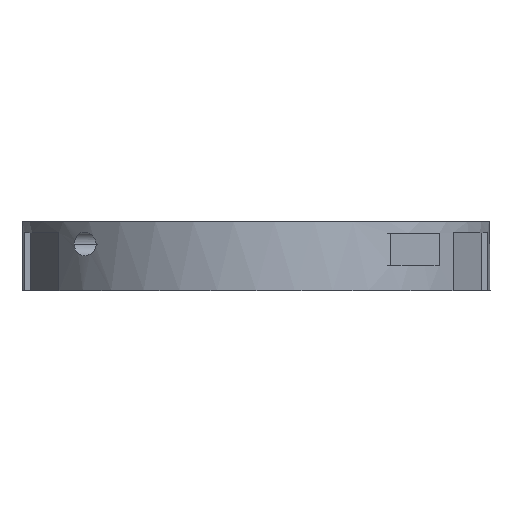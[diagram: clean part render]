
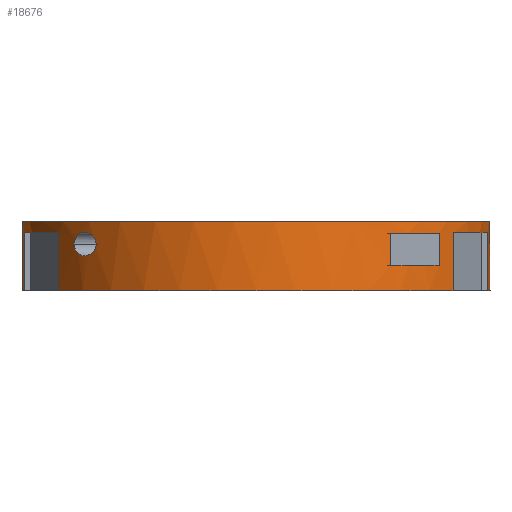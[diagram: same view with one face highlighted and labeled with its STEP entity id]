
A CAD part, front view. The second image highlights one B-rep face of the part: STEP entity #18676.
In plain terms, the highlighted cylindrical face has radius 25 mm (diameter 50 mm), a partial arc.
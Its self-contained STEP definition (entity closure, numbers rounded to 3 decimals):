
#6981=CARTESIAN_POINT(' ',(-24.923,-1.956,7.4));
#6982=VERTEX_POINT(' ',#6981);
#6986=CARTESIAN_POINT(' ',(24.923,1.956,7.4));
#6987=VERTEX_POINT(' ',#6986);
#7001=CARTESIAN_POINT(' ',(0.,0.,7.4));
#7006=DIRECTION(' ',(0.,0.,-1.));
#7011=DIRECTION(' ',(0.997,0.078,0.));
#7016=AXIS2_PLACEMENT_3D(' ',#7001,#7006,#7011);
#7021=CIRCLE('',#7016,25.);
#7026=EDGE_CURVE(' ',#6987,#6982,#7021,.T.);
#17166=CARTESIAN_POINT(' ',(24.923,1.956,0.));
#17171=DIRECTION(' ',(0.,0.,1.));
#17176=VECTOR(' ',#17171,1.);
#17181=LINE('',#17166,#17176);
#17186=CARTESIAN_POINT(' ',(24.923,1.956,0.));
#17187=VERTEX_POINT(' ',#17186);
#17191=EDGE_CURVE(' ',#17187,#6987,#17181,.T.);
#17526=CARTESIAN_POINT(' ',(-24.923,-1.956,0.));
#17527=VERTEX_POINT(' ',#17526);
#17541=CARTESIAN_POINT(' ',(-24.923,-1.956,0.));
#17546=DIRECTION(' ',(0.,0.,1.));
#17551=VECTOR(' ',#17546,1.);
#17556=LINE('',#17541,#17551);
#17561=EDGE_CURVE(' ',#17527,#6982,#17556,.T.);
#17941=CARTESIAN_POINT(' ',(0.,0.,22.5));
#17946=DIRECTION(' ',(0.,0.,-1.));
#17951=DIRECTION(' ',(0.997,0.078,0.));
#17956=AXIS2_PLACEMENT_3D(' ',#17941,#17946,#17951);
#17961=CYLINDRICAL_SURFACE(' ',#17956,25.);
#17966=ORIENTED_EDGE(' ',*,*,#17191,.T.);
#17971=ORIENTED_EDGE(' ',*,*,#7026,.T.);
#17976=ORIENTED_EDGE(' ',*,*,#17561,.F.);
#17981=CARTESIAN_POINT(' ',(0.,0.,0.));
#17986=DIRECTION(' ',(0.,0.,-1.));
#17991=DIRECTION(' ',(-0.988,-0.156,0.));
#17996=AXIS2_PLACEMENT_3D(' ',#17981,#17986,#17991);
#18001=CIRCLE('',#17996,25.);
#18006=CARTESIAN_POINT(' ',(-24.694,-3.9,0.));
#18007=VERTEX_POINT(' ',#18006);
#18011=EDGE_CURVE(' ',#18007,#17527,#18001,.T.);
#18016=ORIENTED_EDGE(' ',*,*,#18011,.F.);
#18021=CARTESIAN_POINT(' ',(-24.694,-3.9,6.2));
#18026=DIRECTION(' ',(0.,0.,-1.));
#18031=VECTOR(' ',#18026,1.);
#18036=LINE('',#18021,#18031);
#18041=CARTESIAN_POINT(' ',(-24.694,-3.9,6.2));
#18042=VERTEX_POINT(' ',#18041);
#18046=EDGE_CURVE(' ',#18042,#18007,#18036,.T.);
#18051=ORIENTED_EDGE(' ',*,*,#18046,.F.);
#18056=CARTESIAN_POINT(' ',(0.,0.,6.2));
#18061=DIRECTION(' ',(0.,0.,1.));
#18066=DIRECTION(' ',(-0.988,-0.156,0.));
#18071=AXIS2_PLACEMENT_3D(' ',#18056,#18061,#18066);
#18076=CIRCLE('',#18071,25.);
#18081=CARTESIAN_POINT(' ',(-21.05,-13.487,6.2));
#18082=VERTEX_POINT(' ',#18081);
#18086=EDGE_CURVE(' ',#18042,#18082,#18076,.T.);
#18091=ORIENTED_EDGE(' ',*,*,#18086,.T.);
#18096=CARTESIAN_POINT(' ',(-21.05,-13.487,6.2));
#18101=DIRECTION(' ',(0.,0.,-1.));
#18106=VECTOR(' ',#18101,1.);
#18111=LINE('',#18096,#18106);
#18116=CARTESIAN_POINT(' ',(-21.05,-13.487,0.));
#18117=VERTEX_POINT(' ',#18116);
#18121=EDGE_CURVE(' ',#18082,#18117,#18111,.T.);
#18126=ORIENTED_EDGE(' ',*,*,#18121,.T.);
#18131=CARTESIAN_POINT(' ',(0.,0.,0.));
#18136=DIRECTION(' ',(0.,0.,-1.));
#18141=DIRECTION(' ',(0.842,-0.539,0.));
#18146=AXIS2_PLACEMENT_3D(' ',#18131,#18136,#18141);
#18151=CIRCLE('',#18146,25.);
#18156=CARTESIAN_POINT(' ',(21.05,-13.487,0.));
#18157=VERTEX_POINT(' ',#18156);
#18161=EDGE_CURVE(' ',#18157,#18117,#18151,.T.);
#18166=ORIENTED_EDGE(' ',*,*,#18161,.F.);
#18171=CARTESIAN_POINT(' ',(21.05,-13.487,6.2));
#18176=DIRECTION(' ',(0.,0.,-1.));
#18181=VECTOR(' ',#18176,1.);
#18186=LINE('',#18171,#18181);
#18191=CARTESIAN_POINT(' ',(21.05,-13.487,6.2));
#18192=VERTEX_POINT(' ',#18191);
#18196=EDGE_CURVE(' ',#18192,#18157,#18186,.T.);
#18201=ORIENTED_EDGE(' ',*,*,#18196,.F.);
#18206=CARTESIAN_POINT(' ',(0.,0.,6.2));
#18211=DIRECTION(' ',(0.,0.,1.));
#18216=DIRECTION(' ',(0.842,-0.539,0.));
#18221=AXIS2_PLACEMENT_3D(' ',#18206,#18211,#18216);
#18226=CIRCLE('',#18221,25.);
#18231=CARTESIAN_POINT(' ',(24.694,-3.9,6.2));
#18232=VERTEX_POINT(' ',#18231);
#18236=EDGE_CURVE(' ',#18192,#18232,#18226,.T.);
#18241=ORIENTED_EDGE(' ',*,*,#18236,.T.);
#18246=CARTESIAN_POINT(' ',(24.694,-3.9,6.2));
#18251=DIRECTION(' ',(0.,0.,-1.));
#18256=VECTOR(' ',#18251,1.);
#18261=LINE('',#18246,#18256);
#18266=CARTESIAN_POINT(' ',(24.694,-3.9,0.));
#18267=VERTEX_POINT(' ',#18266);
#18271=EDGE_CURVE(' ',#18232,#18267,#18261,.T.);
#18276=ORIENTED_EDGE(' ',*,*,#18271,.T.);
#18281=CARTESIAN_POINT(' ',(0.,0.,0.));
#18286=DIRECTION(' ',(-0.,0.,-1.));
#18291=DIRECTION(' ',(0.997,0.078,0.));
#18296=AXIS2_PLACEMENT_3D(' ',#18281,#18286,#18291);
#18301=CIRCLE('',#18296,25.);
#18306=EDGE_CURVE(' ',#17187,#18267,#18301,.T.);
#18311=ORIENTED_EDGE(' ',*,*,#18306,.F.);
#18316=EDGE_LOOP(' ',(#17966,#17971,#17976,#18016,#18051,#18091,#18126,#18166,#18201,#18241,#18276,#18311));
#18321=FACE_OUTER_BOUND(' ',#18316,.T.);
#18326=CARTESIAN_POINT(' ',(0.,0.,6.15));
#18331=DIRECTION(' ',(0.,0.,-1.));
#18336=DIRECTION(' ',(0.783,-0.622,0.));
#18341=AXIS2_PLACEMENT_3D(' ',#18326,#18331,#18336);
#18346=CIRCLE('',#18341,25.);
#18351=CARTESIAN_POINT(' ',(19.575,-15.55,6.15));
#18352=VERTEX_POINT(' ',#18351);
#18356=CARTESIAN_POINT(' ',(14.38,-20.45,6.15));
#18357=VERTEX_POINT(' ',#18356);
#18361=EDGE_CURVE(' ',#18352,#18357,#18346,.T.);
#18366=ORIENTED_EDGE(' ',*,*,#18361,.F.);
#18371=CARTESIAN_POINT(' ',(19.575,-15.55,6.15));
#18376=DIRECTION(' ',(0.,0.,-1.));
#18381=VECTOR(' ',#18376,1.);
#18386=LINE('',#18371,#18381);
#18391=CARTESIAN_POINT(' ',(19.575,-15.55,2.712));
#18392=VERTEX_POINT(' ',#18391);
#18396=EDGE_CURVE(' ',#18352,#18392,#18386,.T.);
#18401=ORIENTED_EDGE(' ',*,*,#18396,.T.);
#18406=CARTESIAN_POINT(' ',(0.,0.,2.712));
#18411=DIRECTION(' ',(0.,0.,1.));
#18416=DIRECTION(' ',(0.575,-0.818,0.));
#18421=AXIS2_PLACEMENT_3D(' ',#18406,#18411,#18416);
#18426=CIRCLE('',#18421,25.);
#18431=CARTESIAN_POINT(' ',(14.38,-20.45,2.712));
#18432=VERTEX_POINT(' ',#18431);
#18436=EDGE_CURVE(' ',#18432,#18392,#18426,.T.);
#18441=ORIENTED_EDGE(' ',*,*,#18436,.F.);
#18446=CARTESIAN_POINT(' ',(14.38,-20.45,2.712));
#18451=DIRECTION(' ',(0.,0.,1.));
#18456=VECTOR(' ',#18451,1.);
#18461=LINE('',#18446,#18456);
#18466=EDGE_CURVE(' ',#18432,#18357,#18461,.T.);
#18471=ORIENTED_EDGE(' ',*,*,#18466,.T.);
#18476=EDGE_LOOP(' ',(#18366,#18401,#18441,#18471));
#18481=FACE_BOUND(' ',#18476,.T.);
#18486=CARTESIAN_POINT(' ',(-17.086,-18.25,5.));
#18491=CARTESIAN_POINT(' ',(-17.086,-18.25,4.703));
#18496=CARTESIAN_POINT(' ',(-17.208,-18.137,4.416));
#18501=CARTESIAN_POINT(' ',(-17.529,-17.826,4.035));
#18506=CARTESIAN_POINT(' ',(-17.699,-17.658,3.911));
#18511=CARTESIAN_POINT(' ',(-18.037,-17.312,3.782));
#18516=CARTESIAN_POINT(' ',(-18.24,-17.099,3.736));
#18521=CARTESIAN_POINT(' ',(-18.618,-16.687,3.773));
#18526=CARTESIAN_POINT(' ',(-18.704,-16.589,3.814));
#18531=CARTESIAN_POINT(' ',(-18.988,-16.264,3.961));
#18536=CARTESIAN_POINT(' ',(-19.127,-16.099,4.103));
#18541=CARTESIAN_POINT(' ',(-19.348,-15.834,4.491));
#18546=CARTESIAN_POINT(' ',(-19.415,-15.75,4.738));
#18551=CARTESIAN_POINT(' ',(-19.415,-15.75,5.));
#18556=B_SPLINE_CURVE_WITH_KNOTS('',3,(#18486,#18491,#18496,#18501,#18506,#18511,#18516,#18521,#18526,#18531,#18536,#18541,#18546,#18551),.UNSPECIFIED.,.F.,.U.,(4,2,2,2,2,2,4),(0.,0.207,0.38,0.48,0.58,0.788,1.),.UNSPECIFIED.);
#18561=CARTESIAN_POINT(' ',(-17.086,-18.25,5.));
#18562=VERTEX_POINT(' ',#18561);
#18566=CARTESIAN_POINT(' ',(-19.415,-15.75,5.));
#18567=VERTEX_POINT(' ',#18566);
#18571=EDGE_CURVE(' ',#18562,#18567,#18556,.T.);
#18576=ORIENTED_EDGE(' ',*,*,#18571,.T.);
#18581=CARTESIAN_POINT(' ',(-19.415,-15.75,5.));
#18586=CARTESIAN_POINT(' ',(-19.415,-15.75,5.449));
#18591=CARTESIAN_POINT(' ',(-19.235,-15.977,5.844));
#18596=CARTESIAN_POINT(' ',(-18.8,-16.48,6.146));
#18601=CARTESIAN_POINT(' ',(-18.693,-16.604,6.209));
#18606=CARTESIAN_POINT(' ',(-18.306,-17.028,6.264));
#18611=CARTESIAN_POINT(' ',(-18.084,-17.263,6.229));
#18616=CARTESIAN_POINT(' ',(-17.722,-17.636,6.108));
#18621=CARTESIAN_POINT(' ',(-17.533,-17.823,5.973));
#18626=CARTESIAN_POINT(' ',(-17.209,-18.136,5.58));
#18631=CARTESIAN_POINT(' ',(-17.093,-18.244,5.304));
#18636=CARTESIAN_POINT(' ',(-17.086,-18.25,5.019));
#18641=CARTESIAN_POINT(' ',(-17.086,-18.25,5.009));
#18646=CARTESIAN_POINT(' ',(-17.086,-18.25,5.));
#18651=B_SPLINE_CURVE_WITH_KNOTS('',3,(#18581,#18586,#18591,#18596,#18601,#18606,#18611,#18616,#18621,#18626,#18631,#18636,#18641,#18646),.UNSPECIFIED.,.F.,.U.,(4,2,2,2,2,2,4),(0.,0.358,0.478,0.578,0.786,0.993,1.),.UNSPECIFIED.);
#18656=EDGE_CURVE(' ',#18567,#18562,#18651,.T.);
#18661=ORIENTED_EDGE(' ',*,*,#18656,.T.);
#18666=EDGE_LOOP(' ',(#18576,#18661));
#18671=FACE_BOUND(' ',#18666,.T.);
#18676=ADVANCED_FACE('',(#18321,#18481,#18671),#17961,.T.);
